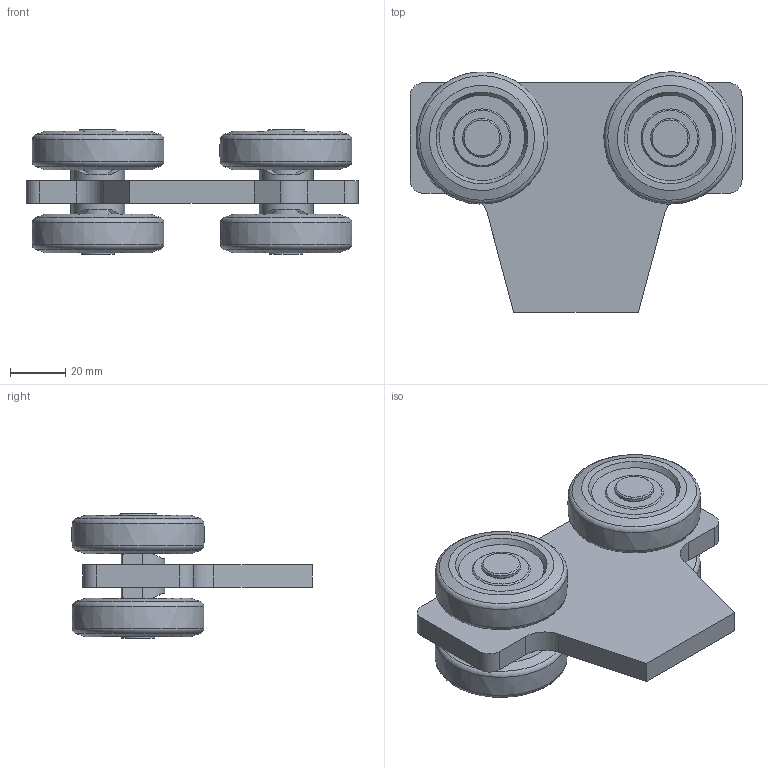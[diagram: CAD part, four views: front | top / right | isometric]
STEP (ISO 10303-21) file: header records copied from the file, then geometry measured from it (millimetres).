
FILE_DESCRIPTION(/* description */ ('Brennteil'),/* implementation_level */ '2;1');
FILE_NAME(/* name */ 'Q:\sge-ma\Produktmanagement-STB\STB\Workspace\stp\010336851.stp',/* time_stamp */ '2016-07-14T12:58:32+02:00',/* author */ ('avschreier'),/* organization */ (''),/* preprocessor_version */ 'ST-DEVELOPER v16.1',/* originating_system */ 'Autodesk Inventor 2016',/* authorisation */ '');
FILE_SCHEMA (('AUTOMOTIVE_DESIGN { 1 0 10303 214 3 1 1 }'));
Length unit declared in the file: millimetre
Products named in the file (5): 000302076; 000303237; 336290030; 000304012; 010336851
Assembly tree (11 placements, depth 2):
  010336851
    000302076
    000303237  x4
    336290030  x4
    000304012  x2
Bounding box: 120 x 86.98 x 45 mm (x, y, z)
Volume: 146509.7 mm3; surface area: 46436.9 mm2
Topology: 11 solids, 11 shells, 260 faces, 620 edges, 398 vertices
Faces by surface type: plane 146, bspline 36, cone 36, cylinder 34, torus 8
Full cylindrical faces by diameter (mm): 12 x6, 14 x2
Entity records: 3677 total; most frequent: CARTESIAN_POINT 1553, DIRECTION 432, ORIENTED_EDGE 388, EDGE_CURVE 194, AXIS2_PLACEMENT_3D 162, VERTEX_POINT 135, EDGE_LOOP 111, LINE 108
